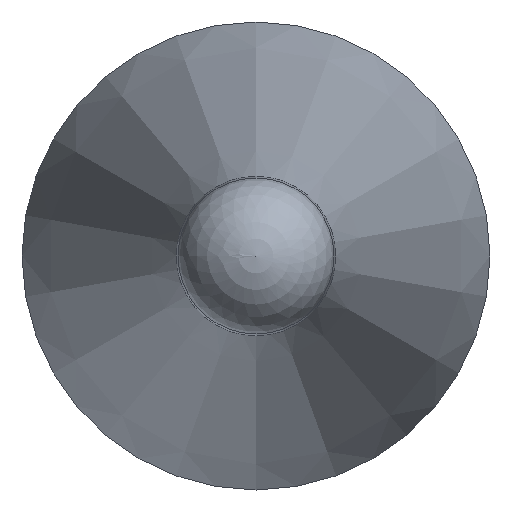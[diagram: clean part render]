
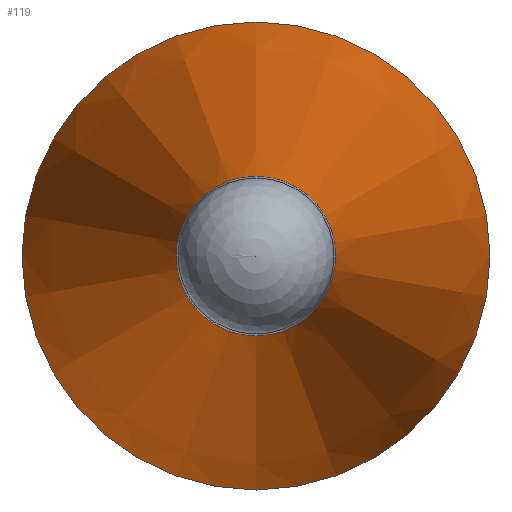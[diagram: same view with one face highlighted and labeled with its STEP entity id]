
A CAD part, left-side view. The second image highlights one B-rep face of the part: STEP entity #119.
In plain terms, the highlighted conical face has half-angle 12 degrees and reference radius 3 mm.
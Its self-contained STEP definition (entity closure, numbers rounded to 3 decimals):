
#97=CONICAL_SURFACE('',#194,3.,12.);
#106=FACE_BOUND('',#134,.T.);
#107=FACE_BOUND('',#135,.T.);
#119=ADVANCED_FACE('',(#106,#107),#97,.T.);
#134=EDGE_LOOP('',(#150));
#135=EDGE_LOOP('',(#151));
#150=ORIENTED_EDGE('',*,*,#172,.T.);
#151=ORIENTED_EDGE('',*,*,#173,.F.);
#164=VERTEX_POINT('',#249);
#165=VERTEX_POINT('',#252);
#172=EDGE_CURVE('',#164,#164,#180,.T.);
#173=EDGE_CURVE('',#165,#165,#181,.T.);
#180=CIRCLE('',#191,1.022);
#181=CIRCLE('',#193,3.);
#191=AXIS2_PLACEMENT_3D('',#248,#215,#216);
#193=AXIS2_PLACEMENT_3D('',#251,#219,#220);
#194=AXIS2_PLACEMENT_3D('',#253,#221,#222);
#215=DIRECTION('',(1.,0.,0.));
#216=DIRECTION('',(0.,0.,-1.));
#219=DIRECTION('',(1.,0.,0.));
#220=DIRECTION('',(0.,0.,-1.));
#221=DIRECTION('',(1.,0.,0.));
#222=DIRECTION('',(0.,0.,-1.));
#248=CARTESIAN_POINT('',(7905.912,6103.288,0.));
#249=CARTESIAN_POINT('',(7905.912,6103.288,-1.022));
#251=CARTESIAN_POINT('',(7915.218,6103.288,0.));
#252=CARTESIAN_POINT('',(7915.218,6103.288,-3.));
#253=CARTESIAN_POINT('',(7915.218,6103.288,0.));
